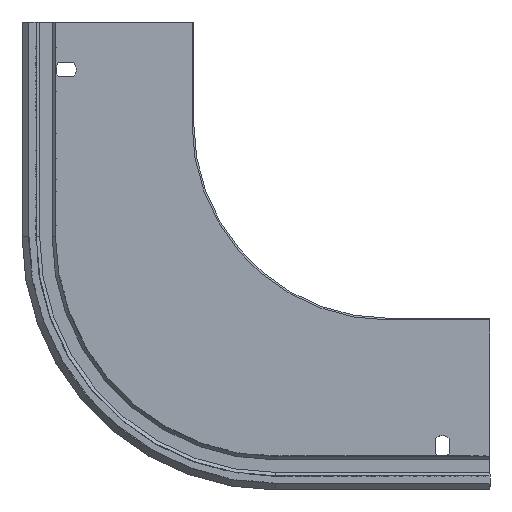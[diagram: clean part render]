
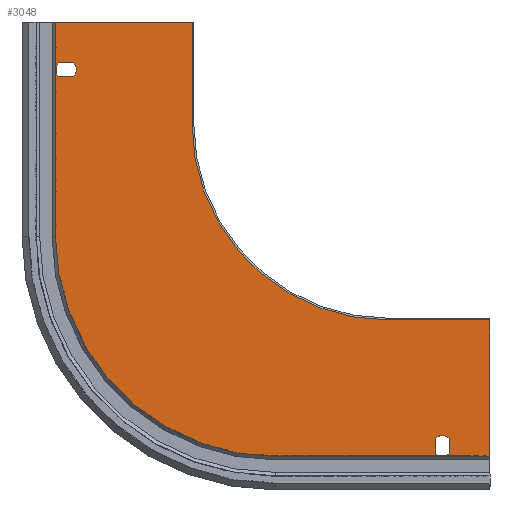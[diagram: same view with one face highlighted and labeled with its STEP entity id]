
A CAD part, left-side view. The second image highlights one B-rep face of the part: STEP entity #3048.
In plain terms, the highlighted planar face has unit normal (-1, 0, 0).
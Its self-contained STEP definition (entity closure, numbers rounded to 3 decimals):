
#12 = DIRECTION ( 'NONE',  ( 0., 0., -1. ) ) ;
#57 = LINE ( 'NONE', #2009, #3742 ) ;
#72 = VECTOR ( 'NONE', #2772, 1000. ) ;
#152 = CARTESIAN_POINT ( 'NONE',  ( 0., 60., -80. ) ) ;
#156 = DIRECTION ( 'NONE',  ( 0., -1., 0. ) ) ;
#220 = CARTESIAN_POINT ( 'NONE',  ( 0., 253.672, -223.2 ) ) ;
#253 = DIRECTION ( 'NONE',  ( 1., 0., 0. ) ) ;
#268 = CIRCLE ( 'NONE', #1504, 6. ) ;
#304 = FACE_BOUND ( 'NONE', #2241, .T. ) ;
#452 = CIRCLE ( 'NONE', #1236, 6. ) ;
#468 = CIRCLE ( 'NONE', #1885, 6. ) ;
#488 = CIRCLE ( 'NONE', #5445, 6. ) ;
#518 = CARTESIAN_POINT ( 'NONE',  ( 0., 255.531, -255.2 ) ) ;
#520 = DIRECTION ( 'NONE',  ( 0., -1., 0. ) ) ;
#703 = DIRECTION ( 'NONE',  ( 0., 1., 0. ) ) ;
#706 = EDGE_CURVE ( 'NONE', #1422, #3304, #3471, .T. ) ;
#731 = DIRECTION ( 'NONE',  ( -1., 0., 0. ) ) ;
#735 = ORIENTED_EDGE ( 'NONE', *, *, #1876, .T. ) ;
#775 = VECTOR ( 'NONE', #703, 1000. ) ;
#833 = VERTEX_POINT ( 'NONE', #3168 ) ;
#935 = EDGE_CURVE ( 'NONE', #5072, #5770, #3767, .T. ) ;
#944 = EDGE_CURVE ( 'NONE', #1780, #833, #2406, .T. ) ;
#951 = EDGE_LOOP ( 'NONE', ( #5068, #2536, #3912, #3643 ) ) ;
#1005 = ORIENTED_EDGE ( 'NONE', *, *, #1099, .T. ) ;
#1038 = CIRCLE ( 'NONE', #4388, 6. ) ;
#1099 = EDGE_CURVE ( 'NONE', #1869, #5640, #5717, .T. ) ;
#1135 = CARTESIAN_POINT ( 'NONE',  ( 0., 0., 0.331 ) ) ;
#1143 = CARTESIAN_POINT ( 'NONE',  ( 0., 244.728, -231.2 ) ) ;
#1211 = CARTESIAN_POINT ( 'NONE',  ( 0., 126., 0.331 ) ) ;
#1236 = AXIS2_PLACEMENT_3D ( 'NONE', #1663, #253, #5762 ) ;
#1296 = EDGE_CURVE ( 'NONE', #5770, #5352, #452, .T. ) ;
#1330 = CARTESIAN_POINT ( 'NONE',  ( 0., 253.672, -231.2 ) ) ;
#1346 = VERTEX_POINT ( 'NONE', #2145 ) ;
#1362 = DIRECTION ( 'NONE',  ( 0., 0., -1. ) ) ;
#1365 = CARTESIAN_POINT ( 'NONE',  ( 0., 249.2, -227.2 ) ) ;
#1370 = ORIENTED_EDGE ( 'NONE', *, *, #1688, .F. ) ;
#1405 = CIRCLE ( 'NONE', #4743, 129.531 ) ;
#1417 = CARTESIAN_POINT ( 'NONE',  ( 0., 0., -80. ) ) ;
#1422 = VERTEX_POINT ( 'NONE', #5035 ) ;
#1429 = CARTESIAN_POINT ( 'NONE',  ( 0., 174.2, -255.2 ) ) ;
#1469 = EDGE_CURVE ( 'NONE', #2829, #5072, #1038, .T. ) ;
#1472 = CARTESIAN_POINT ( 'NONE',  ( 0., 0., -223.2 ) ) ;
#1484 = CARTESIAN_POINT ( 'NONE',  ( 0., 244.728, -223.2 ) ) ;
#1504 = AXIS2_PLACEMENT_3D ( 'NONE', #2180, #5820, #3572 ) ;
#1546 = EDGE_CURVE ( 'NONE', #1580, #3836, #1832, .T. ) ;
#1580 = VERTEX_POINT ( 'NONE', #4848 ) ;
#1592 = PLANE ( 'NONE',  #2484 ) ;
#1663 = CARTESIAN_POINT ( 'NONE',  ( 0., 249.2, -227.2 ) ) ;
#1688 = EDGE_CURVE ( 'NONE', #833, #4086, #3638, .T. ) ;
#1716 = ORIENTED_EDGE ( 'NONE', *, *, #3387, .T. ) ;
#1749 = CARTESIAN_POINT ( 'NONE',  ( 0., 126., -129.2 ) ) ;
#1780 = VERTEX_POINT ( 'NONE', #4685 ) ;
#1797 = CARTESIAN_POINT ( 'NONE',  ( 0., 28., -6. ) ) ;
#1832 = LINE ( 'NONE', #1417, #4182 ) ;
#1869 = VERTEX_POINT ( 'NONE', #2569 ) ;
#1876 = EDGE_CURVE ( 'NONE', #1422, #1346, #1405, .T. ) ;
#1885 = AXIS2_PLACEMENT_3D ( 'NONE', #1797, #5451, #1362 ) ;
#1886 = VECTOR ( 'NONE', #156, 1000. ) ;
#1896 = VERTEX_POINT ( 'NONE', #5857 ) ;
#1906 = EDGE_LOOP ( 'NONE', ( #5430, #3768, #735, #3194, #1370, #4153, #5623, #5704 ) ) ;
#1985 = EDGE_CURVE ( 'NONE', #5640, #1896, #268, .T. ) ;
#2007 = CARTESIAN_POINT ( 'NONE',  ( 0., 32., -1.528 ) ) ;
#2009 = CARTESIAN_POINT ( 'NONE',  ( 0., 0., 0. ) ) ;
#2134 = FACE_BOUND ( 'NONE', #951, .T. ) ;
#2145 = CARTESIAN_POINT ( 'NONE',  ( 0., 255.531, -129.2 ) ) ;
#2161 = FACE_OUTER_BOUND ( 'NONE', #1906, .T. ) ;
#2180 = CARTESIAN_POINT ( 'NONE',  ( 0., 28., -6. ) ) ;
#2241 = EDGE_LOOP ( 'NONE', ( #1716, #5674, #1005, #5097, #3217 ) ) ;
#2269 = VECTOR ( 'NONE', #3464, 1000. ) ;
#2290 = CIRCLE ( 'NONE', #5720, 115.2 ) ;
#2406 = LINE ( 'NONE', #5029, #72 ) ;
#2447 = VERTEX_POINT ( 'NONE', #4906 ) ;
#2484 = AXIS2_PLACEMENT_3D ( 'NONE', #3012, #2555, #3945 ) ;
#2492 = DIRECTION ( 'NONE',  ( 0., 0., -1. ) ) ;
#2536 = ORIENTED_EDGE ( 'NONE', *, *, #1469, .T. ) ;
#2555 = DIRECTION ( 'NONE',  ( 1., 0., 0. ) ) ;
#2569 = CARTESIAN_POINT ( 'NONE',  ( 0., 24., -1.528 ) ) ;
#2647 = CARTESIAN_POINT ( 'NONE',  ( 0., 60., -195.2 ) ) ;
#2772 = DIRECTION ( 'NONE',  ( 0., 0., -1. ) ) ;
#2817 = CARTESIAN_POINT ( 'NONE',  ( 0., 24., -10.472 ) ) ;
#2829 = VERTEX_POINT ( 'NONE', #1330 ) ;
#2834 = EDGE_CURVE ( 'NONE', #1896, #2447, #468, .T. ) ;
#2888 = DIRECTION ( 'NONE',  ( 1., 0., 0. ) ) ;
#2931 = LINE ( 'NONE', #4741, #4305 ) ;
#2943 = VECTOR ( 'NONE', #3213, 1000. ) ;
#3011 = CARTESIAN_POINT ( 'NONE',  ( 0., 24., 0. ) ) ;
#3012 = CARTESIAN_POINT ( 'NONE',  ( 0., 0., 0. ) ) ;
#3048 = ADVANCED_FACE ( 'NONE', ( #304, #2134, #2161 ), #1592, .F. ) ;
#3073 = EDGE_CURVE ( 'NONE', #3836, #1780, #2290, .T. ) ;
#3168 = CARTESIAN_POINT ( 'NONE',  ( 0., 175.2, -255.2 ) ) ;
#3194 = ORIENTED_EDGE ( 'NONE', *, *, #3600, .T. ) ;
#3213 = DIRECTION ( 'NONE',  ( 0., 1., 0. ) ) ;
#3217 = ORIENTED_EDGE ( 'NONE', *, *, #2834, .T. ) ;
#3255 = VECTOR ( 'NONE', #4066, 1000. ) ;
#3304 = VERTEX_POINT ( 'NONE', #1135 ) ;
#3370 = CARTESIAN_POINT ( 'NONE',  ( 0., 28., -6. ) ) ;
#3387 = EDGE_CURVE ( 'NONE', #2447, #5312, #2931, .T. ) ;
#3432 = DIRECTION ( 'NONE',  ( 0., 0., 1. ) ) ;
#3464 = DIRECTION ( 'NONE',  ( 0., 0., -1. ) ) ;
#3471 = LINE ( 'NONE', #1211, #1886 ) ;
#3523 = CARTESIAN_POINT ( 'NONE',  ( 0., 0., -231.2 ) ) ;
#3538 = DIRECTION ( 'NONE',  ( -1., 0., 0. ) ) ;
#3572 = DIRECTION ( 'NONE',  ( 0., 0., -1. ) ) ;
#3600 = EDGE_CURVE ( 'NONE', #1346, #4086, #4617, .T. ) ;
#3638 = LINE ( 'NONE', #1429, #2943 ) ;
#3643 = ORIENTED_EDGE ( 'NONE', *, *, #1296, .T. ) ;
#3729 = VECTOR ( 'NONE', #520, 1000. ) ;
#3742 = VECTOR ( 'NONE', #2492, 1000. ) ;
#3767 = LINE ( 'NONE', #1472, #3729 ) ;
#3768 = ORIENTED_EDGE ( 'NONE', *, *, #706, .F. ) ;
#3836 = VERTEX_POINT ( 'NONE', #152 ) ;
#3877 = EDGE_CURVE ( 'NONE', #5352, #2829, #5267, .T. ) ;
#3912 = ORIENTED_EDGE ( 'NONE', *, *, #935, .T. ) ;
#3945 = DIRECTION ( 'NONE',  ( 0., 0., -1. ) ) ;
#4066 = DIRECTION ( 'NONE',  ( 0., 0., -1. ) ) ;
#4086 = VERTEX_POINT ( 'NONE', #518 ) ;
#4113 = EDGE_CURVE ( 'NONE', #3304, #1580, #57, .T. ) ;
#4153 = ORIENTED_EDGE ( 'NONE', *, *, #944, .F. ) ;
#4162 = EDGE_CURVE ( 'NONE', #5312, #1869, #488, .T. ) ;
#4182 = VECTOR ( 'NONE', #5541, 1000. ) ;
#4196 = DIRECTION ( 'NONE',  ( 0., 0., -1. ) ) ;
#4305 = VECTOR ( 'NONE', #4339, 1000. ) ;
#4339 = DIRECTION ( 'NONE',  ( 0., 0., 1. ) ) ;
#4388 = AXIS2_PLACEMENT_3D ( 'NONE', #1365, #5096, #12 ) ;
#4423 = DIRECTION ( 'NONE',  ( 0., 0., 1. ) ) ;
#4617 = LINE ( 'NONE', #5011, #3255 ) ;
#4685 = CARTESIAN_POINT ( 'NONE',  ( 0., 175.2, -195.2 ) ) ;
#4741 = CARTESIAN_POINT ( 'NONE',  ( 0., 32., 0. ) ) ;
#4743 = AXIS2_PLACEMENT_3D ( 'NONE', #1749, #3538, #4423 ) ;
#4848 = CARTESIAN_POINT ( 'NONE',  ( 0., 0., -80. ) ) ;
#4906 = CARTESIAN_POINT ( 'NONE',  ( 0., 32., -10.472 ) ) ;
#5011 = CARTESIAN_POINT ( 'NONE',  ( 0., 255.531, -129.2 ) ) ;
#5029 = CARTESIAN_POINT ( 'NONE',  ( 0., 175.2, -195.2 ) ) ;
#5035 = CARTESIAN_POINT ( 'NONE',  ( 0., 126., 0.331 ) ) ;
#5068 = ORIENTED_EDGE ( 'NONE', *, *, #3877, .T. ) ;
#5072 = VERTEX_POINT ( 'NONE', #220 ) ;
#5096 = DIRECTION ( 'NONE',  ( 1., 0., 0. ) ) ;
#5097 = ORIENTED_EDGE ( 'NONE', *, *, #1985, .T. ) ;
#5267 = LINE ( 'NONE', #3523, #775 ) ;
#5312 = VERTEX_POINT ( 'NONE', #2007 ) ;
#5352 = VERTEX_POINT ( 'NONE', #1143 ) ;
#5430 = ORIENTED_EDGE ( 'NONE', *, *, #4113, .F. ) ;
#5445 = AXIS2_PLACEMENT_3D ( 'NONE', #3370, #2888, #4196 ) ;
#5451 = DIRECTION ( 'NONE',  ( 1., 0., 0. ) ) ;
#5541 = DIRECTION ( 'NONE',  ( 0., 1., 0. ) ) ;
#5623 = ORIENTED_EDGE ( 'NONE', *, *, #3073, .F. ) ;
#5640 = VERTEX_POINT ( 'NONE', #2817 ) ;
#5674 = ORIENTED_EDGE ( 'NONE', *, *, #4162, .T. ) ;
#5704 = ORIENTED_EDGE ( 'NONE', *, *, #1546, .F. ) ;
#5717 = LINE ( 'NONE', #3011, #2269 ) ;
#5720 = AXIS2_PLACEMENT_3D ( 'NONE', #2647, #731, #3432 ) ;
#5762 = DIRECTION ( 'NONE',  ( 0., 0., -1. ) ) ;
#5770 = VERTEX_POINT ( 'NONE', #1484 ) ;
#5820 = DIRECTION ( 'NONE',  ( 1., 0., 0. ) ) ;
#5857 = CARTESIAN_POINT ( 'NONE',  ( 0., 28., -12. ) ) ;
